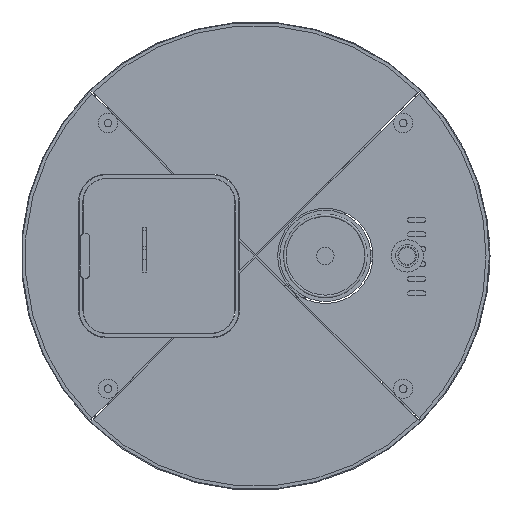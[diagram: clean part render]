
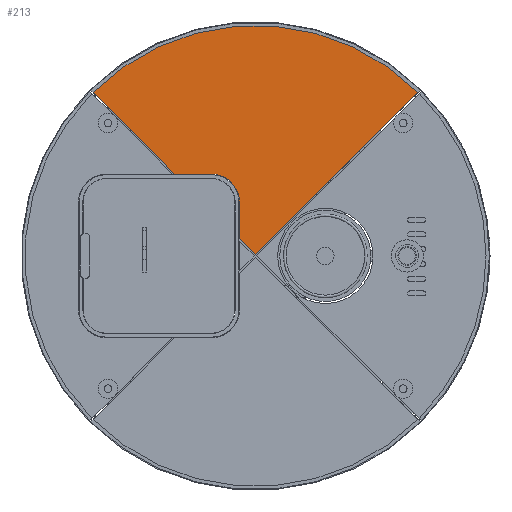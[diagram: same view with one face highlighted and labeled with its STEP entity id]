
A CAD part, top view. The second image highlights one B-rep face of the part: STEP entity #213.
In plain terms, the highlighted planar face has unit normal (0, 0, 1).
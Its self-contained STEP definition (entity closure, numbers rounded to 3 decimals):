
#175 = EDGE_CURVE('',#176,#178,#180,.T.);
#176 = VERTEX_POINT('',#177);
#177 = CARTESIAN_POINT('',(121.003,121.957,77.));
#178 = VERTEX_POINT('',#179);
#179 = CARTESIAN_POINT('',(-121.003,121.957,77.));
#180 = CIRCLE('',#181,171.8);
#181 = AXIS2_PLACEMENT_3D('',#182,#183,#184);
#182 = CARTESIAN_POINT('',(0.,0.,77.));
#183 = DIRECTION('',(0.,0.,1.));
#184 = DIRECTION('',(1.,0.,0.));
#213 = ADVANCED_FACE('',(#214),#264,.T.);
#214 = FACE_BOUND('',#215,.T.);
#215 = EDGE_LOOP('',(#216,#224,#225,#233,#241,#250,#258));
#216 = ORIENTED_EDGE('',*,*,#217,.F.);
#217 = EDGE_CURVE('',#176,#218,#220,.T.);
#218 = VERTEX_POINT('',#219);
#219 = CARTESIAN_POINT('',(0.,0.955,77.));
#220 = LINE('',#221,#222);
#221 = CARTESIAN_POINT('',(-0.239,0.716,77.));
#222 = VECTOR('',#223,1.);
#223 = DIRECTION('',(-0.707,-0.707,0.));
#224 = ORIENTED_EDGE('',*,*,#175,.T.);
#225 = ORIENTED_EDGE('',*,*,#226,.F.);
#226 = EDGE_CURVE('',#227,#178,#229,.T.);
#227 = VERTEX_POINT('',#228);
#228 = CARTESIAN_POINT('',(-60.045,61.,77.));
#229 = LINE('',#230,#231);
#230 = CARTESIAN_POINT('',(0.239,0.716,77.));
#231 = VECTOR('',#232,1.);
#232 = DIRECTION('',(-0.707,0.707,0.));
#233 = ORIENTED_EDGE('',*,*,#234,.F.);
#234 = EDGE_CURVE('',#235,#227,#237,.T.);
#235 = VERTEX_POINT('',#236);
#236 = CARTESIAN_POINT('',(-33.,61.,77.));
#237 = LINE('',#238,#239);
#238 = CARTESIAN_POINT('',(-55.5,61.,77.));
#239 = VECTOR('',#240,1.);
#240 = DIRECTION('',(-1.,0.,0.));
#241 = ORIENTED_EDGE('',*,*,#242,.F.);
#242 = EDGE_CURVE('',#243,#235,#245,.T.);
#243 = VERTEX_POINT('',#244);
#244 = CARTESIAN_POINT('',(-12.,40.,77.));
#245 = CIRCLE('',#246,21.);
#246 = AXIS2_PLACEMENT_3D('',#247,#248,#249);
#247 = CARTESIAN_POINT('',(-33.,40.,77.));
#248 = DIRECTION('',(0.,0.,1.));
#249 = DIRECTION('',(1.,0.,0.));
#250 = ORIENTED_EDGE('',*,*,#251,.F.);
#251 = EDGE_CURVE('',#252,#243,#254,.T.);
#252 = VERTEX_POINT('',#253);
#253 = CARTESIAN_POINT('',(-12.,12.955,77.));
#254 = LINE('',#255,#256);
#255 = CARTESIAN_POINT('',(-12.,-20.,77.));
#256 = VECTOR('',#257,1.);
#257 = DIRECTION('',(0.,1.,0.));
#258 = ORIENTED_EDGE('',*,*,#259,.F.);
#259 = EDGE_CURVE('',#218,#252,#260,.T.);
#260 = LINE('',#261,#262);
#261 = CARTESIAN_POINT('',(0.239,0.716,77.));
#262 = VECTOR('',#263,1.);
#263 = DIRECTION('',(-0.707,0.707,0.));
#264 = PLANE('',#265);
#265 = AXIS2_PLACEMENT_3D('',#266,#267,#268);
#266 = CARTESIAN_POINT('',(0.,0.,77.));
#267 = DIRECTION('',(0.,0.,1.));
#268 = DIRECTION('',(1.,0.,0.));
